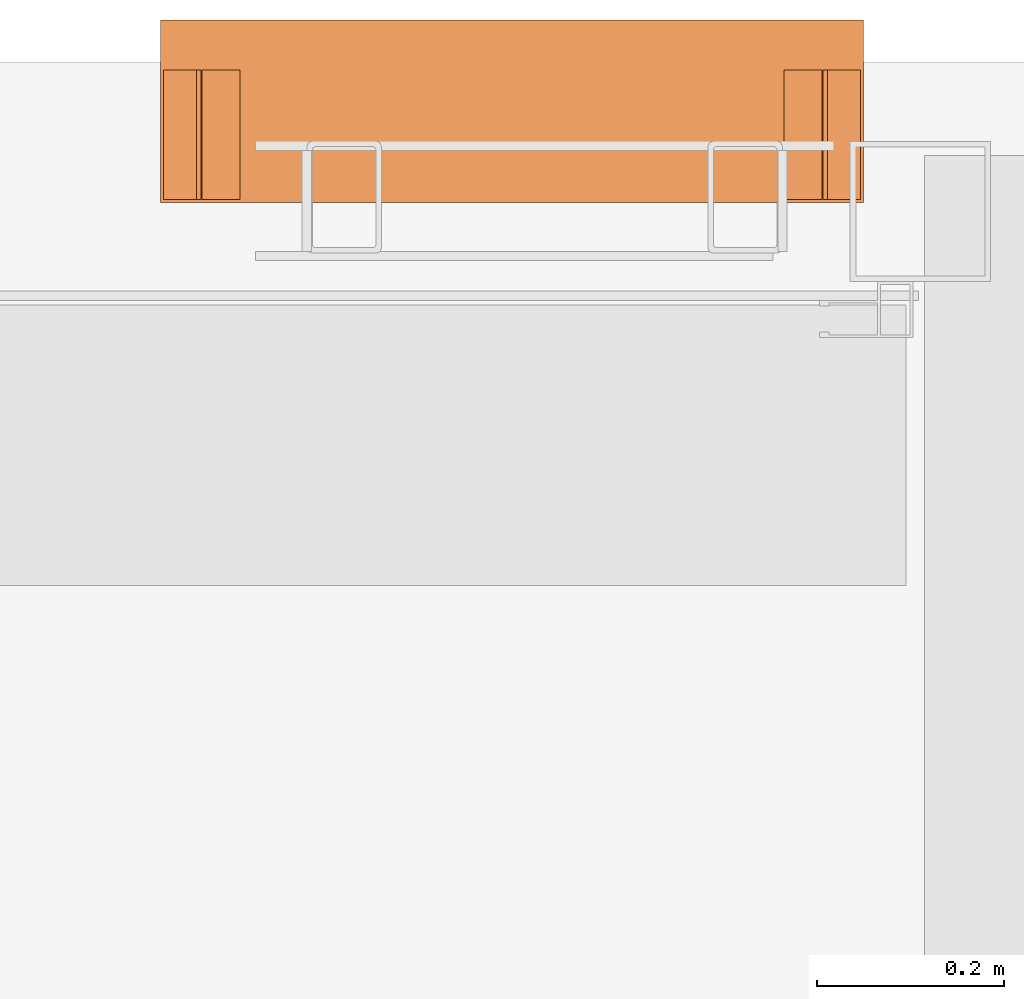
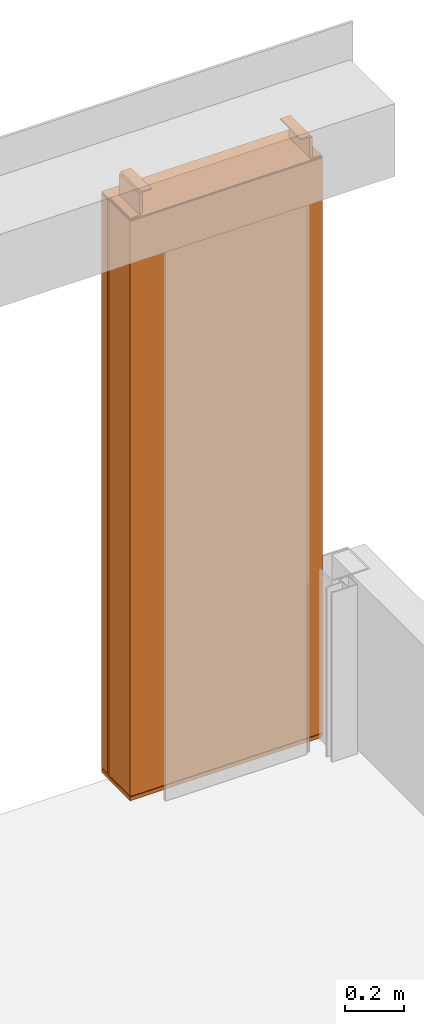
# One storey, part 26 of 26: 1 proxy.
"""IFC2X3 building model written with IfcOpenShell, lengths in millimetres."""

from ifc_helpers import new_model, entity, si_unit, converted_unit, derived_unit, direction, frame, origin, origin_with_axes, place, context, subcontext, project, spatial, faceted_brep, source, transform, mapped, material, type_object, element, save


model = new_model("IFC2X3")

# Units and contexts
model_context = context("Model", 3, precision=0.01, world=frame((0.0, 4.29681676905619e-09, 0.0)), true_north=direction((4.01073788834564e-13, 1.0)))
plan_context = context("Plan", 3, precision=0.01, world=frame((0.0, 4.29681676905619e-09, 0.0)), true_north=direction((4.01073788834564e-13, 1.0)))
body_context = subcontext(model_context, "Body", "Model", "MODEL_VIEW")
ifc_project = project(units=[converted_unit("PLANEANGLEUNIT", "DEGREE", entity("IfcPositiveLengthMeasure", 0.0174532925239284), si_unit("PLANEANGLEUNIT", "RADIAN"), dimensions=[0, 0, 0, 0, 0, 0, 0]), si_unit("AREAUNIT", "SQUARE_METRE"), si_unit("LENGTHUNIT", "METRE", prefix="MILLI"), si_unit("MASSUNIT", "GRAM", prefix="KILO"), si_unit("POWERUNIT", "WATT"), si_unit("PRESSUREUNIT", "PASCAL", prefix="KILO"), si_unit("FORCEUNIT", "NEWTON", prefix="KILO"), si_unit("ELECTRICVOLTAGEUNIT", "VOLT"), si_unit("ELECTRICCURRENTUNIT", "AMPERE"), si_unit("THERMODYNAMICTEMPERATUREUNIT", "DEGREE_CELSIUS"), si_unit("TIMEUNIT", "SECOND"), si_unit("VOLUMEUNIT", "CUBIC_METRE"), derived_unit("LINEARVELOCITYUNIT", [(si_unit("LENGTHUNIT", "METRE"), 1), (si_unit("TIMEUNIT", "SECOND"), -1)]), derived_unit("VOLUMETRICFLOWRATEUNIT", [(si_unit("VOLUMEUNIT", "CUBIC_METRE"), 1), (si_unit("TIMEUNIT", "SECOND"), -1)]), derived_unit("THERMALTRANSMITTANCEUNIT", [(si_unit("POWERUNIT", "WATT"), 1), (si_unit("THERMODYNAMICTEMPERATUREUNIT", "KELVIN"), -1), (si_unit("AREAUNIT", "SQUARE_METRE"), -1)]), derived_unit("SOUNDPRESSUREUNIT", [(si_unit("PRESSUREUNIT", "PASCAL"), 1)])], contexts=[model_context, plan_context])

# Site, building, storey
site_placement = place(None, origin_with_axes())
site = spatial("IfcSite", under=ifc_project, at=site_placement, Name="ENGM", CompositionType="ELEMENT")
building_placement = place(site_placement, origin_with_axes())
building = spatial("IfcBuilding", under=site, at=building_placement, Name="TG", CompositionType="ELEMENT")
storey_placement = place(building_placement, frame((0.0, 0.0, 210200.0), z_axis=(0.0, 0.0, 1.0), x_axis=(1.0, 0.0, 0.0)))
storey = spatial("IfcBuildingStorey", under=building, at=storey_placement, Name="Nivå F - 0,7 m", CompositionType="ELEMENT", Elevation=210200.0)

# Proxy
ifc_material = material(Name="<Unnamed>")
building_element_proxy_type = type_object("IfcBuildingElementProxyType", Name="A275 - Pylon - venstrehengslet:Pylon med topp brakett", PredefinedType="NOTDEFINED", material=ifc_material)
shared_shape = source(origin(), body_context, "Body", "Brep", [
    faceted_brep([(373.0, 53.5000000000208, 2405.0), (337.634540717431, 53.5000000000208, 2405.0), (337.634540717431, 53.5000000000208, 2490.0), (332.634540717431, 53.5000000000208, 2490.0), (332.634540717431, 53.5000000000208, 2400.0), (373.0, 53.5000000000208, 2400.0), (373.0, 192.0, 2400.0), (373.0, 192.0, 2405.0), (332.634540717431, 192.0, 2400.0), (332.634540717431, 192.0, 2490.0), (337.634540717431, 192.0, 2490.0), (337.634540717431, 192.0, 2405.0)], [[[0, 1, 2, 3, 4, 5]], [[0, 5, 6, 7]], [[5, 4, 8, 6]], [[4, 3, 9, 8]], [[3, 2, 10, 9]], [[2, 1, 11, 10]], [[1, 0, 7, 11]], [[7, 6, 8, 9, 10, 11]]]),
    faceted_brep([(291.26908143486, 192.0, 2495.0), (291.26908143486, 192.0, 2500.0), (331.634540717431, 192.0, 2500.0), (331.634540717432, 192.0, 2410.0), (326.634540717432, 192.0, 2410.0), (326.634540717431, 192.0, 2495.0), (291.26908143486, 53.5000000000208, 2495.0), (291.26908143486, 53.5000000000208, 2500.0), (331.634540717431, 53.5000000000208, 2500.0), (331.634540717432, 53.5000000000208, 2410.0), (326.634540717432, 53.5000000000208, 2410.0), (326.634540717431, 53.5000000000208, 2495.0)], [[[0, 1, 2, 3, 4, 5]], [[6, 7, 1, 0]], [[7, 8, 2, 1]], [[8, 9, 3, 2]], [[9, 10, 4, 3]], [[10, 11, 5, 4]], [[11, 6, 0, 5]], [[6, 11, 10, 9, 8, 7]]]),
    faceted_brep([(-291.26908143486, 53.5000000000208, 2495.0), (-291.26908143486, 53.5000000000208, 2500.0), (-331.634540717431, 53.5000000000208, 2500.0), (-331.634540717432, 53.5000000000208, 2410.0), (-326.634540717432, 53.5000000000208, 2410.0), (-326.634540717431, 53.5000000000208, 2495.0), (-291.26908143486, 192.0, 2495.0), (-291.26908143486, 192.0, 2500.0), (-331.634540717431, 192.0, 2500.0), (-331.634540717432, 192.0, 2410.0), (-326.634540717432, 192.0, 2410.0), (-326.634540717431, 192.0, 2495.0)], [[[0, 1, 2, 3, 4, 5]], [[1, 0, 6, 7]], [[2, 1, 7, 8]], [[3, 2, 8, 9]], [[4, 3, 9, 10]], [[5, 4, 10, 11]], [[0, 5, 11, 6]], [[6, 11, 10, 9, 8, 7]]]),
    faceted_brep([(-373.0, 192.0, 2405.0), (-337.634540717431, 192.0, 2405.0), (-337.634540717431, 192.0, 2490.0), (-332.634540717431, 192.0, 2490.0), (-332.634540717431, 192.0, 2400.0), (-373.0, 192.0, 2400.0), (-373.0, 53.5000000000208, 2400.0), (-373.0, 53.5000000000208, 2405.0), (-332.634540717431, 53.5000000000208, 2400.0), (-332.634540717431, 53.5000000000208, 2490.0), (-337.634540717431, 53.5000000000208, 2490.0), (-337.634540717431, 53.5000000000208, 2405.0)], [[[0, 1, 2, 3, 4, 5]], [[6, 7, 0, 5]], [[8, 6, 5, 4]], [[9, 8, 4, 3]], [[10, 9, 3, 2]], [[11, 10, 2, 1]], [[7, 11, 1, 0]], [[7, 6, 8, 9, 10, 11]]]),
    faceted_brep([(376.0, 41.0, 2390.98999999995), (-376.0, 41.0, 2390.98999999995), (-376.0, 1.0, 2390.98999999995), (376.0, 1.0, 2390.98999999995), (373.0, 38.0, 2390.98999999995), (373.0, 4.0, 2390.98999999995), (-373.0, 4.0, 2390.98999999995), (-373.0, 38.0, 2390.98999999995), (376.0, 41.0, 180.0), (376.0, 1.0, 180.0), (-376.0, 1.0, 180.0), (-376.0, 41.0, 180.0), (373.0, 38.0, 180.0), (-373.0, 38.0, 180.0), (-373.0, 4.0, 180.0), (373.0, 4.0, 180.0), (-286.5, 1.0, 2310.98999999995), (286.500000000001, 1.0, 2310.98999999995), (286.500000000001, 1.0, 270.189999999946), (-286.5, 1.0, 270.189999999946), (286.500000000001, 3.0, 2310.98999999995), (-286.5, 3.0, 2310.98999999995), (-286.5, 3.0, 270.189999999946), (286.500000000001, 3.0, 270.189999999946)], [[[0, 1, 2, 3], [4, 5, 6, 7]], [[8, 9, 10, 11], [12, 13, 14, 15]], [[1, 0, 8, 11]], [[2, 1, 11, 10]], [[3, 2, 10, 9], [16, 17, 18, 19]], [[0, 3, 9, 8]], [[20, 21, 22, 23]], [[21, 20, 17, 16]], [[22, 21, 16, 19]], [[23, 22, 19, 18]], [[20, 23, 18, 17]], [[5, 4, 12, 15]], [[6, 5, 15, 14]], [[7, 6, 14, 13]], [[4, 7, 13, 12]]]),
    faceted_brep([(376.0, 41.0, 180.0), (-376.0, 41.0, 180.0), (-376.0, 0.0, 180.0), (376.0, 0.0, 180.0), (373.0, 38.0, 180.0), (373.0, 3.0, 180.0), (-373.0, 3.0, 180.0), (-373.0, 38.0, 180.0), (376.0, 41.0, 20.0), (376.0, 0.0, 20.0), (-376.0, 0.0, 20.0), (-376.0, 41.0, 20.0), (373.0, 38.0, 20.0), (-373.0, 38.0, 20.0), (-373.0, 3.0, 20.0), (373.0, 3.0, 20.0)], [[[0, 1, 2, 3], [4, 5, 6, 7]], [[8, 9, 10, 11], [12, 13, 14, 15]], [[1, 0, 8, 11]], [[2, 1, 11, 10]], [[3, 2, 10, 9]], [[0, 3, 9, 8]], [[5, 4, 12, 15]], [[6, 5, 15, 14]], [[7, 6, 14, 13]], [[4, 7, 13, 12]]]),
    faceted_brep([(376.0, 195.0, 2400.1), (-376.0, 195.0, 2400.1), (-376.0, 0.0, 2400.1), (376.0, 0.0, 2400.1), (376.0, 195.0, 2396.1), (376.0, 0.0, 2396.1), (-376.0, 0.0, 2396.1), (-376.0, 195.0, 2396.1)], [[[0, 1, 2, 3]], [[4, 5, 6, 7]], [[1, 0, 4, 7]], [[2, 1, 7, 6]], [[3, 2, 6, 5]], [[0, 3, 5, 4]]]),
    faceted_brep([(376.0, 195.0, 15.0), (-376.0, 195.0, 15.0), (-376.0, 0.0, 15.0), (376.0, 0.0, 15.0), (376.0, 195.0, 0.0), (376.0, 0.0, 0.0), (-376.0, 0.0, 0.0), (-376.0, 195.0, 0.0)], [[[0, 1, 2, 3]], [[4, 5, 6, 7]], [[1, 0, 4, 7]], [[2, 1, 7, 6]], [[3, 2, 6, 5]], [[0, 3, 5, 4]]]),
    faceted_brep([(360.0, 50.5000000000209, 2390.98999999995), (-360.0, 50.5000000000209, 2390.98999999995), (-360.0, 41.0, 2390.98999999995), (360.0, 41.0, 2390.98999999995), (360.0, 50.5000000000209, 20.0), (360.0, 41.0, 20.0), (-360.0, 41.0, 20.0), (-360.0, 50.5000000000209, 20.0)], [[[0, 1, 2, 3]], [[4, 5, 6, 7]], [[1, 0, 4, 7]], [[2, 1, 7, 6]], [[3, 2, 6, 5]], [[0, 3, 5, 4]]]),
    faceted_brep([(376.0, 195.0, 2393.8), (-376.0, 195.0, 2393.8), (-376.0, 50.5000000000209, 2393.8), (376.0, 50.5000000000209, 2393.8), (373.0, 192.0, 2393.8), (373.0, 53.5000000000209, 2393.8), (-373.0, 53.5000000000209, 2393.8), (-373.0, 192.0, 2393.8), (376.0, 195.0, 17.3), (376.0, 50.5000000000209, 17.3), (-376.0, 50.5000000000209, 17.3), (-376.0, 195.0, 17.3), (373.0, 192.0, 17.3), (-373.0, 192.0, 17.3), (-373.0, 53.5000000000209, 17.3), (373.0, 53.5000000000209, 17.3)], [[[0, 1, 2, 3], [4, 5, 6, 7]], [[8, 9, 10, 11], [12, 13, 14, 15]], [[1, 0, 8, 11]], [[2, 1, 11, 10]], [[3, 2, 10, 9]], [[0, 3, 9, 8]], [[5, 4, 12, 15]], [[6, 5, 15, 14]], [[7, 6, 14, 13]], [[4, 7, 13, 12]]]),
])
proxy_placement = place(storey_placement, frame((348494.000000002, 467544.999999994, 0.0), z_axis=(0.0, 0.0, 1.0), x_axis=(-1.0, 0.0, 0.0)))
element("IfcBuildingElementProxy", 1, at=proxy_placement, inside=storey, type_object=building_element_proxy_type, material=ifc_material, Name="A275 - Pylon - venstrehengslet:Pylon med topp brakett", ObjectType="A275 - Pylon - venstrehengslet:Pylon med topp brakett", context=body_context, shape_type="MappedRepresentation", body=[
    mapped(shared_shape, transform((0.0, 0.0, 0.0), scale=1.0)),
])

save(model, "model.ifc")
